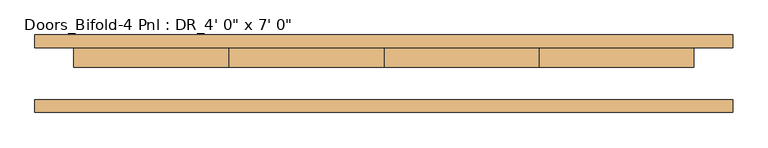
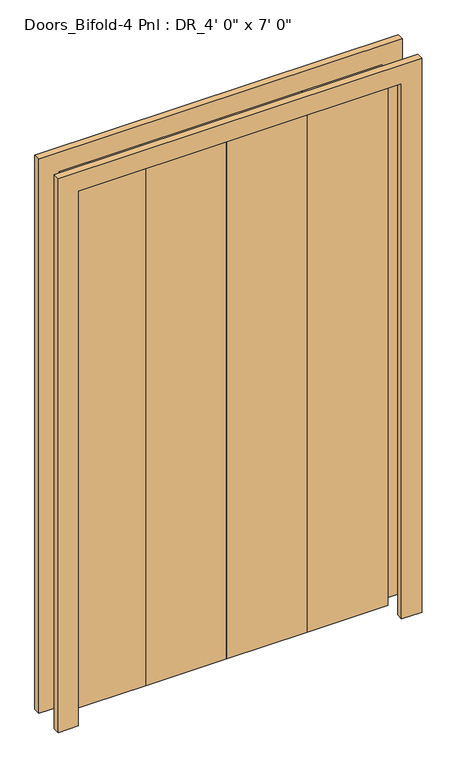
"""IFC4 building model written with IfcOpenShell, lengths in millimetres: door geometry."""

from ifc_helpers import new_model, si_unit, frame, origin, origin_with_axes, place, context, project, spatial, polyline, outline, extrude, source, transform, mapped, element, save


def door_3a96ff52(model_context):
    return source(origin(), model_context, "Body", "SweptSolid", [
        extrude(outline(polyline([(0.0, 685.8), (2209.8, 685.8), (2209.8, -685.8), (0.0, -685.8), (0.0, -609.6), (2133.6, -609.6), (2133.6, 609.6), (0.0, 609.6), (0.0, 685.8)])), frame((0.0, -76.2, 0.0), z_axis=(0.0, 1.0, 0.0), x_axis=(0.0, 0.0, 1.0)), (0.0, 0.0, 1.0), 25.4),
        extrude(outline(polyline([(0.0, 685.8), (2209.8, 685.8), (2209.8, -685.8), (0.0, -685.8), (0.0, -609.6), (2133.6, -609.6), (2133.6, 609.6), (0.0, 609.6), (0.0, 685.8)])), frame((0.0, 50.8, 0.0), z_axis=(0.0, 1.0, 0.0), x_axis=(0.0, 0.0, 1.0)), (0.0, 0.0, 1.0), 25.4),
        extrude(outline(polyline([(-609.6, 50.8), (-304.8, 50.8), (-304.8, 12.7), (-609.6, 12.7), (-609.6, 50.8)])), origin_with_axes(), (0.0, 0.0, 1.0), 2133.6),
        extrude(outline(polyline([(-304.8, 50.8), (0.0, 50.8), (0.0, 12.7), (-304.8, 12.7), (-304.8, 50.8)])), origin_with_axes(), (0.0, 0.0, 1.0), 2133.6),
        extrude(outline(polyline([(0.0, 50.8), (304.8, 50.8), (304.8, 12.7), (0.0, 12.7), (0.0, 50.8)])), origin_with_axes(), (0.0, 0.0, 1.0), 2133.6),
        extrude(outline(polyline([(304.8, 50.8), (609.6, 50.8), (609.6, 12.7), (304.8, 12.7), (304.8, 50.8)])), origin_with_axes(), (0.0, 0.0, 1.0), 2133.6),
    ])


if __name__ == "__main__":
    model = new_model("IFC4")
    model_context = context("Model", 3, world=origin())
    ifc_project = project(units=[si_unit("LENGTHUNIT", "METRE", prefix="MILLI")], contexts=[model_context])
    site = spatial("IfcSite", under=ifc_project)
    building = spatial("IfcBuilding", under=site)
    placement = place(None, origin())
    door_shape = door_3a96ff52(model_context)
    element("IfcDoor", 1, ObjectType="Doors_Bifold-4 Pnl : DR_4' 0\" x 7' 0\"", at=placement, inside=building, context=model_context, shape_type="MappedRepresentation", body=[
        mapped(door_shape, transform((0.0, 0.0, 0.0), x_axis=(1.0, 0.0, 0.0), y_axis=(0.0, 1.0, 0.0), z_axis=(0.0, 0.0, 1.0))),
    ])
    save(model, "model.ifc")
